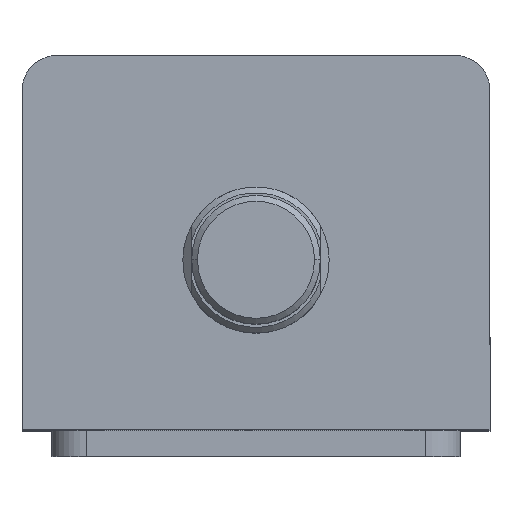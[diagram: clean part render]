
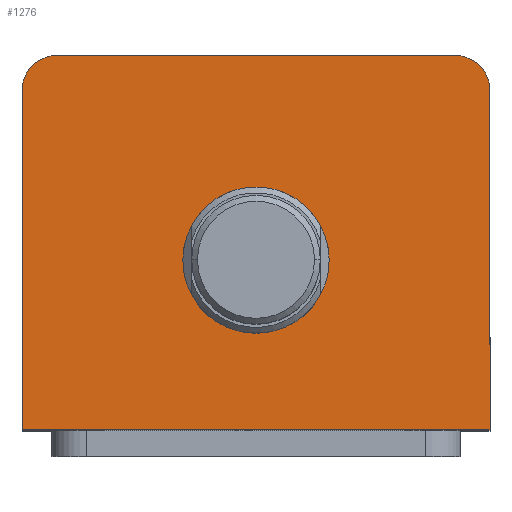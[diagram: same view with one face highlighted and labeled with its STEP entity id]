
A CAD part, top view. The second image highlights one B-rep face of the part: STEP entity #1276.
In plain terms, the highlighted planar face has unit normal (0, 0, 1).
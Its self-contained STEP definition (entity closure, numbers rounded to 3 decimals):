
#279 = DIRECTION ( 'NONE',  ( 0., -1., 0. ) ) ;
#507 = DIRECTION ( 'NONE',  ( 0., 0., 1. ) ) ;
#511 = CARTESIAN_POINT ( 'NONE',  ( 34., 26., 150. ) ) ;
#514 = DIRECTION ( 'NONE',  ( 1., 0., 0. ) ) ;
#610 = DIRECTION ( 'NONE',  ( 0., 1., 0. ) ) ;
#611 = CARTESIAN_POINT ( 'NONE',  ( 40., 32., 150. ) ) ;
#637 = DIRECTION ( 'NONE',  ( 1., 0., 0. ) ) ;
#640 = DIRECTION ( 'NONE',  ( 0., 0., 1. ) ) ;
#642 = PLANE ( 'NONE',  #2290 ) ;
#646 = CARTESIAN_POINT ( 'NONE',  ( 0., 0., 150. ) ) ;
#1125 = EDGE_CURVE ( 'NONE', #1438, #1460, #2579, .T. ) ;
#1184 = EDGE_CURVE ( 'NONE', #1418, #1423, #2619, .T. ) ;
#1200 = EDGE_CURVE ( 'NONE', #1428, #1434, #2649, .T. ) ;
#1229 = EDGE_CURVE ( 'NONE', #1423, #1389, #2685, .T. ) ;
#1256 = EDGE_CURVE ( 'NONE', #1389, #1428, #2699, .T. ) ;
#1276 = ADVANCED_FACE ( 'NONE', ( #2725, #2731 ), #642, .T. ) ;
#1386 = VERTEX_POINT ( 'NONE', #3320 ) ;
#1389 = VERTEX_POINT ( 'NONE', #3322 ) ;
#1418 = VERTEX_POINT ( 'NONE', #3291 ) ;
#1423 = VERTEX_POINT ( 'NONE', #3275 ) ;
#1428 = VERTEX_POINT ( 'NONE', #3270 ) ;
#1434 = VERTEX_POINT ( 'NONE', #3259 ) ;
#1438 = VERTEX_POINT ( 'NONE', #3256 ) ;
#1460 = VERTEX_POINT ( 'NONE', #3234 ) ;
#1509 = ORIENTED_EDGE ( 'NONE', *, *, #2161, .F. ) ;
#1510 = ORIENTED_EDGE ( 'NONE', *, *, #1125, .F. ) ;
#1512 = ORIENTED_EDGE ( 'NONE', *, *, #1200, .T. ) ;
#1513 = ORIENTED_EDGE ( 'NONE', *, *, #2129, .T. ) ;
#1514 = ORIENTED_EDGE ( 'NONE', *, *, #3215, .T. ) ;
#1515 = ORIENTED_EDGE ( 'NONE', *, *, #1184, .T. ) ;
#1525 = ORIENTED_EDGE ( 'NONE', *, *, #1256, .T. ) ;
#1536 = ORIENTED_EDGE ( 'NONE', *, *, #1229, .T. ) ;
#1835 = EDGE_LOOP ( 'NONE', ( #1512, #1513, #1514, #1515, #1536, #1525 ) ) ;
#1843 = EDGE_LOOP ( 'NONE', ( #1509, #1510 ) ) ;
#2129 = EDGE_CURVE ( 'NONE', #1434, #1386, #2912, .T. ) ;
#2161 = EDGE_CURVE ( 'NONE', #1460, #1438, #2963, .T. ) ;
#2243 = AXIS2_PLACEMENT_3D ( 'NONE', #3667, #3665, #3664 ) ;
#2271 = AXIS2_PLACEMENT_3D ( 'NONE', #511, #507, #514 ) ;
#2290 = AXIS2_PLACEMENT_3D ( 'NONE', #646, #640, #637 ) ;
#2394 = AXIS2_PLACEMENT_3D ( 'NONE', #3199, #3174, #3173 ) ;
#2402 = AXIS2_PLACEMENT_3D ( 'NONE', #3113, #3112, #3111 ) ;
#2579 = CIRCLE ( 'NONE', #2243, 12.5 ) ;
#2619 = LINE ( 'NONE', #3582, #2624 ) ;
#2624 = VECTOR ( 'NONE', #3578, 1000. ) ;
#2649 = LINE ( 'NONE', #3531, #2652 ) ;
#2652 = VECTOR ( 'NONE', #3530, 1000. ) ;
#2685 = LINE ( 'NONE', #611, #2692 ) ;
#2692 = VECTOR ( 'NONE', #610, 1000. ) ;
#2699 = CIRCLE ( 'NONE', #2271, 6. ) ;
#2725 = FACE_BOUND ( 'NONE', #1843, .T. ) ;
#2731 = FACE_OUTER_BOUND ( 'NONE', #1835, .T. ) ;
#2912 = CIRCLE ( 'NONE', #2394, 6. ) ;
#2963 = CIRCLE ( 'NONE', #2402, 12.5 ) ;
#3042 = LINE ( 'NONE', #3796, #3050 ) ;
#3050 = VECTOR ( 'NONE', #279, 1000. ) ;
#3111 = DIRECTION ( 'NONE',  ( 1., 0., 0. ) ) ;
#3112 = DIRECTION ( 'NONE',  ( 0., 0., 1. ) ) ;
#3113 = CARTESIAN_POINT ( 'NONE',  ( 0., -3., 150. ) ) ;
#3173 = DIRECTION ( 'NONE',  ( 1., 0., 0. ) ) ;
#3174 = DIRECTION ( 'NONE',  ( 0., 0., 1. ) ) ;
#3199 = CARTESIAN_POINT ( 'NONE',  ( -34., 26., 150. ) ) ;
#3215 = EDGE_CURVE ( 'NONE', #1386, #1418, #3042, .T. ) ;
#3234 = CARTESIAN_POINT ( 'NONE',  ( 12.5, -3., 150. ) ) ;
#3256 = CARTESIAN_POINT ( 'NONE',  ( -12.5, -3., 150. ) ) ;
#3259 = CARTESIAN_POINT ( 'NONE',  ( -34., 32., 150. ) ) ;
#3270 = CARTESIAN_POINT ( 'NONE',  ( 34., 32., 150. ) ) ;
#3275 = CARTESIAN_POINT ( 'NONE',  ( 40., -32., 150. ) ) ;
#3291 = CARTESIAN_POINT ( 'NONE',  ( -40., -32., 150. ) ) ;
#3320 = CARTESIAN_POINT ( 'NONE',  ( -40., 26., 150. ) ) ;
#3322 = CARTESIAN_POINT ( 'NONE',  ( 40., 26., 150. ) ) ;
#3530 = DIRECTION ( 'NONE',  ( -1., 0., 0. ) ) ;
#3531 = CARTESIAN_POINT ( 'NONE',  ( -40., 32., 150. ) ) ;
#3578 = DIRECTION ( 'NONE',  ( 1., 0., 0. ) ) ;
#3582 = CARTESIAN_POINT ( 'NONE',  ( -40., -32., 150. ) ) ;
#3664 = DIRECTION ( 'NONE',  ( 1., 0., 0. ) ) ;
#3665 = DIRECTION ( 'NONE',  ( 0., 0., 1. ) ) ;
#3667 = CARTESIAN_POINT ( 'NONE',  ( 0., -3., 150. ) ) ;
#3796 = CARTESIAN_POINT ( 'NONE',  ( -40., 32., 150. ) ) ;
